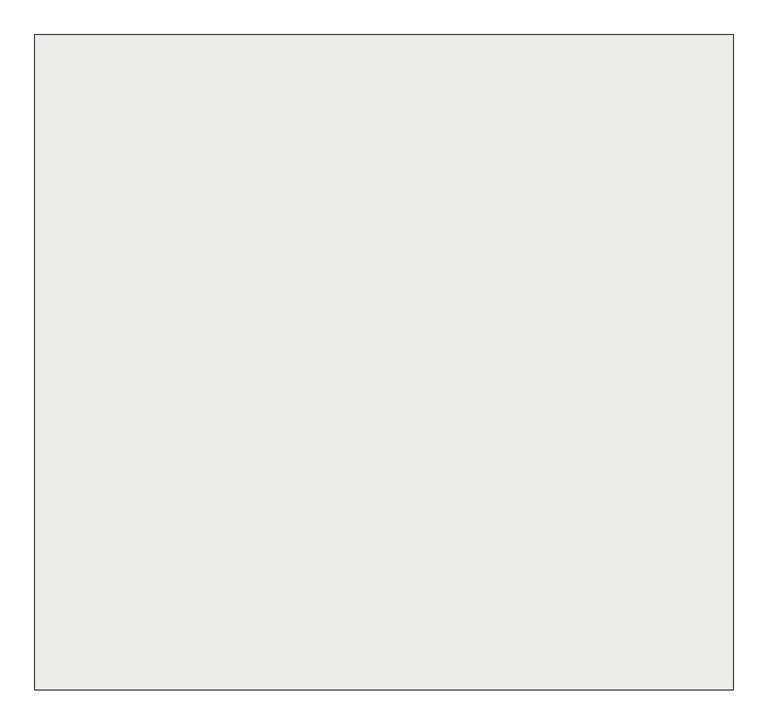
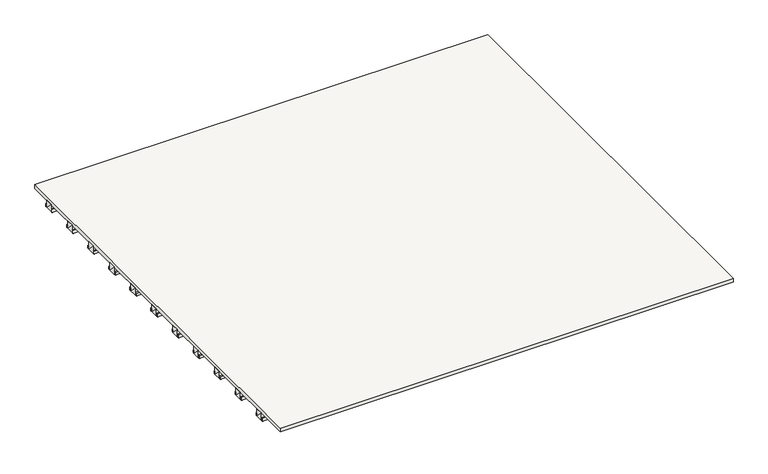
"""IFC4 building model written with IfcOpenShell, lengths in millimetres: slab geometry."""

from ifc_helpers import new_model, si_unit, frame, origin, place, context, project, spatial, polyline, outline, extrude, faceted_brep, source, transform, mapped, element, save


def slab_90040733(model_context):
    return source(origin(), model_context, "Body", "SolidModel", [
        faceted_brep([(-2362.845, -261.3, -120.0), (2362.845, -261.3, -120.0), (2362.845, -276.3, -120.0), (-2362.845, -276.3, -120.0), (-2362.845, -276.3, -90.0), (2362.845, -276.3, -90.0), (2362.845, -261.3, -90.0), (-2362.845, -261.3, -90.0)], [[[0, 1, 2, 3]], [[4, 5, 6, 7]], [[4, 3, 5]], [[3, 2, 5]], [[5, 2, 6]], [[2, 1, 6]], [[6, 1, 7]], [[1, 0, 7]], [[7, 0, 4]], [[0, 3, 4]]]),
        faceted_brep([(-2362.845, 498.7, -120.0), (2362.845, 498.7, -120.0), (2362.845, 483.7, -120.0), (-2362.845, 483.7, -120.0), (-2362.845, 483.7, -90.0), (2362.845, 483.7, -90.0), (2362.845, 498.7, -90.0), (-2362.845, 498.7, -90.0)], [[[0, 1, 2, 3]], [[4, 5, 6, 7]], [[4, 3, 5]], [[3, 2, 5]], [[5, 2, 6]], [[2, 1, 6]], [[6, 1, 7]], [[1, 0, 7]], [[7, 0, 4]], [[0, 3, 4]]]),
        faceted_brep([(-2362.845, -1796.3, -120.0), (2362.845, -1796.3, -120.0), (2362.845, -1876.3, -120.0), (-2362.845, -1876.3, -120.0), (-2362.845, -1876.3, -40.0), (2362.845, -1876.3, -40.0), (2362.845, -1796.3, -40.0), (-2362.845, -1796.3, -40.0)], [[[0, 1, 2, 3]], [[4, 5, 6, 7]], [[4, 3, 5]], [[3, 2, 5]], [[5, 2, 6]], [[2, 1, 6]], [[6, 1, 7]], [[1, 0, 7]], [[7, 0, 4]], [[0, 3, 4]]]),
        faceted_brep([(-2362.845, 1243.7, -120.0), (2362.845, 1243.7, -120.0), (2362.845, 1163.7, -120.0), (-2362.845, 1163.7, -120.0), (-2362.845, 1163.7, -40.0), (2362.845, 1163.7, -40.0), (2362.845, 1243.7, -40.0), (-2362.845, 1243.7, -40.0)], [[[0, 1, 2, 3]], [[4, 5, 6, 7]], [[4, 3, 5]], [[3, 2, 5]], [[5, 2, 6]], [[2, 1, 6]], [[6, 1, 7]], [[1, 0, 7]], [[7, 0, 4]], [[0, 3, 4]]]),
        faceted_brep([(-2362.845, -736.3, -120.0), (2362.845, -736.3, -120.0), (2362.845, -751.3, -120.0), (-2362.845, -751.3, -120.0), (-2362.845, -751.3, -90.0), (2362.845, -751.3, -90.0), (2362.845, -736.3, -90.0), (-2362.845, -736.3, -90.0)], [[[0, 1, 2, 3]], [[4, 5, 6, 7]], [[4, 3, 5]], [[3, 2, 5]], [[5, 2, 6]], [[2, 1, 6]], [[6, 1, 7]], [[1, 0, 7]], [[7, 0, 4]], [[0, 3, 4]]]),
        faceted_brep([(-2362.845, -1416.3, -120.0), (2362.845, -1416.3, -120.0), (2362.845, -1496.3, -120.0), (-2362.845, -1496.3, -120.0), (-2362.845, -1496.3, -40.0), (2362.845, -1496.3, -40.0), (2362.845, -1416.3, -40.0), (-2362.845, -1416.3, -40.0)], [[[0, 1, 2, 3]], [[4, 5, 6, 7]], [[4, 3, 5]], [[3, 2, 5]], [[5, 2, 6]], [[2, 1, 6]], [[6, 1, 7]], [[1, 0, 7]], [[7, 0, 4]], [[0, 3, 4]]]),
        faceted_brep([(-2362.845, 2003.7, -120.0), (2362.845, 2003.7, -120.0), (2362.845, 1923.7, -120.0), (-2362.845, 1923.7, -120.0), (-2362.845, 1923.7, -40.0), (2362.845, 1923.7, -40.0), (2362.845, 2003.7, -40.0), (-2362.845, 2003.7, -40.0)], [[[0, 1, 2, 3]], [[4, 5, 6, 7]], [[4, 3, 5]], [[3, 2, 5]], [[5, 2, 6]], [[2, 1, 6]], [[6, 1, 7]], [[1, 0, 7]], [[7, 0, 4]], [[0, 3, 4]]]),
        faceted_brep([(-2362.845, -1496.3, -120.0), (2362.845, -1496.3, -120.0), (2362.845, -1511.3, -120.0), (-2362.845, -1511.3, -120.0), (-2362.845, -1511.3, -90.0), (2362.845, -1511.3, -90.0), (2362.845, -1496.3, -90.0), (-2362.845, -1496.3, -90.0)], [[[0, 1, 2, 3]], [[4, 5, 6, 7]], [[4, 3, 5]], [[3, 2, 5]], [[5, 2, 6]], [[2, 1, 6]], [[6, 1, 7]], [[1, 0, 7]], [[7, 0, 4]], [[0, 3, 4]]]),
        faceted_brep([(-2362.845, 1163.7, -120.0), (2362.845, 1163.7, -120.0), (2362.845, 1148.7, -120.0), (-2362.845, 1148.7, -120.0), (-2362.845, 1148.7, -90.0), (2362.845, 1148.7, -90.0), (2362.845, 1163.7, -90.0), (-2362.845, 1163.7, -90.0)], [[[0, 1, 2, 3]], [[4, 5, 6, 7]], [[4, 3, 5]], [[3, 2, 5]], [[5, 2, 6]], [[2, 1, 6]], [[6, 1, 7]], [[1, 0, 7]], [[7, 0, 4]], [[0, 3, 4]]]),
        faceted_brep([(-2362.845, -1036.3, -120.0), (2362.845, -1036.3, -120.0), (2362.845, -1116.3, -120.0), (-2362.845, -1116.3, -120.0), (-2362.845, -1116.3, -40.0), (2362.845, -1116.3, -40.0), (2362.845, -1036.3, -40.0), (-2362.845, -1036.3, -40.0)], [[[0, 1, 2, 3]], [[4, 5, 6, 7]], [[4, 3, 5]], [[3, 2, 5]], [[5, 2, 6]], [[2, 1, 6]], [[6, 1, 7]], [[1, 0, 7]], [[7, 0, 4]], [[0, 3, 4]]]),
        faceted_brep([(-2362.845, 118.7, -120.0), (2362.845, 118.7, -120.0), (2362.845, 103.7, -120.0), (-2362.845, 103.7, -120.0), (-2362.845, 103.7, -90.0), (2362.845, 103.7, -90.0), (2362.845, 118.7, -90.0), (-2362.845, 118.7, -90.0)], [[[0, 1, 2, 3]], [[4, 5, 6, 7]], [[4, 3, 5]], [[3, 2, 5]], [[5, 2, 6]], [[2, 1, 6]], [[6, 1, 7]], [[1, 0, 7]], [[7, 0, 4]], [[0, 3, 4]]]),
        faceted_brep([(-2362.845, 1623.7, -120.0), (2362.845, 1623.7, -120.0), (2362.845, 1543.7, -120.0), (-2362.845, 1543.7, -120.0), (-2362.845, 1543.7, -40.0), (2362.845, 1543.7, -40.0), (2362.845, 1623.7, -40.0), (-2362.845, 1623.7, -40.0)], [[[0, 1, 2, 3]], [[4, 5, 6, 7]], [[4, 3, 5]], [[3, 2, 5]], [[5, 2, 6]], [[2, 1, 6]], [[6, 1, 7]], [[1, 0, 7]], [[7, 0, 4]], [[0, 3, 4]]]),
        faceted_brep([(-2362.845, -276.3, -120.0), (2362.845, -276.3, -120.0), (2362.845, -356.3, -120.0), (-2362.845, -356.3, -120.0), (-2362.845, -356.3, -40.0), (2362.845, -356.3, -40.0), (2362.845, -276.3, -40.0), (-2362.845, -276.3, -40.0)], [[[0, 1, 2, 3]], [[4, 5, 6, 7]], [[4, 3, 5]], [[3, 2, 5]], [[5, 2, 6]], [[2, 1, 6]], [[6, 1, 7]], [[1, 0, 7]], [[7, 0, 4]], [[0, 3, 4]]]),
        faceted_brep([(-2362.845, 863.7, -120.0), (2362.845, 863.7, -120.0), (2362.845, 783.7, -120.0), (-2362.845, 783.7, -120.0), (-2362.845, 783.7, -40.0), (2362.845, 783.7, -40.0), (2362.845, 863.7, -40.0), (-2362.845, 863.7, -40.0)], [[[0, 1, 2, 3]], [[4, 5, 6, 7]], [[4, 3, 5]], [[3, 2, 5]], [[5, 2, 6]], [[2, 1, 6]], [[6, 1, 7]], [[1, 0, 7]], [[7, 0, 4]], [[0, 3, 4]]]),
        faceted_brep([(-2362.845, 483.7, -120.0), (2362.845, 483.7, -120.0), (2362.845, 403.7, -120.0), (-2362.845, 403.7, -120.0), (-2362.845, 403.7, -40.0), (2362.845, 403.7, -40.0), (2362.845, 483.7, -40.0), (-2362.845, 483.7, -40.0)], [[[0, 1, 2, 3]], [[4, 5, 6, 7]], [[4, 3, 5]], [[3, 2, 5]], [[5, 2, 6]], [[2, 1, 6]], [[6, 1, 7]], [[1, 0, 7]], [[7, 0, 4]], [[0, 3, 4]]]),
        faceted_brep([(-2362.845, 878.7, -120.0), (2362.845, 878.7, -120.0), (2362.845, 863.7, -120.0), (-2362.845, 863.7, -120.0), (-2362.845, 863.7, -90.0), (2362.845, 863.7, -90.0), (2362.845, 878.7, -90.0), (-2362.845, 878.7, -90.0)], [[[0, 1, 2, 3]], [[4, 5, 6, 7]], [[4, 3, 5]], [[3, 2, 5]], [[5, 2, 6]], [[2, 1, 6]], [[6, 1, 7]], [[1, 0, 7]], [[7, 0, 4]], [[0, 3, 4]]]),
        faceted_brep([(-2362.845, -1876.3, -120.0), (2362.845, -1876.3, -120.0), (2362.845, -1891.3, -120.0), (-2362.845, -1891.3, -120.0), (-2362.845, -1891.3, -90.0), (2362.845, -1891.3, -90.0), (2362.845, -1876.3, -90.0), (-2362.845, -1876.3, -90.0)], [[[0, 1, 2, 3]], [[4, 5, 6, 7]], [[4, 3, 5]], [[3, 2, 5]], [[5, 2, 6]], [[2, 1, 6]], [[6, 1, 7]], [[1, 0, 7]], [[7, 0, 4]], [[0, 3, 4]]]),
        extrude(outline(polyline([(2362.84, 2216.3), (2362.85, -2216.29), (-2362.85, -2216.3), (-2362.84, 2216.3), (2362.84, 2216.3)])), frame((0.0, 0.0, -40.0), z_axis=(0.0, 0.0, 1.0), x_axis=(1.0, 0.0, 0.0)), (0.0, 0.0, 1.0), 40.0),
        faceted_brep([(-2362.845, -1021.3, -120.0), (2362.845, -1021.3, -120.0), (2362.845, -1036.3, -120.0), (-2362.845, -1036.3, -120.0), (-2362.845, -1036.3, -90.0), (2362.845, -1036.3, -90.0), (2362.845, -1021.3, -90.0), (-2362.845, -1021.3, -90.0)], [[[0, 1, 2, 3]], [[4, 5, 6, 7]], [[4, 3, 5]], [[3, 2, 5]], [[5, 2, 6]], [[2, 1, 6]], [[6, 1, 7]], [[1, 0, 7]], [[7, 0, 4]], [[0, 3, 4]]]),
        faceted_brep([(-2362.845, 23.7, -120.0), (2362.845, 23.7, -120.0), (2362.845, 8.7, -120.0), (-2362.845, 8.7, -120.0), (-2362.845, 8.7, -90.0), (2362.845, 8.7, -90.0), (2362.845, 23.7, -90.0), (-2362.845, 23.7, -90.0)], [[[0, 1, 2, 3]], [[4, 5, 6, 7]], [[4, 3, 5]], [[3, 2, 5]], [[5, 2, 6]], [[2, 1, 6]], [[6, 1, 7]], [[1, 0, 7]], [[7, 0, 4]], [[0, 3, 4]]]),
        faceted_brep([(-2362.845, 1638.7, -120.0), (2362.845, 1638.7, -120.0), (2362.845, 1623.7, -120.0), (-2362.845, 1623.7, -120.0), (-2362.845, 1623.7, -90.0), (2362.845, 1623.7, -90.0), (2362.845, 1638.7, -90.0), (-2362.845, 1638.7, -90.0)], [[[0, 1, 2, 3]], [[4, 5, 6, 7]], [[4, 3, 5]], [[3, 2, 5]], [[5, 2, 6]], [[2, 1, 6]], [[6, 1, 7]], [[1, 0, 7]], [[7, 0, 4]], [[0, 3, 4]]]),
        faceted_brep([(-2362.845, 2018.7, -120.0), (2362.845, 2018.7, -120.0), (2362.845, 2003.7, -120.0), (-2362.845, 2003.7, -120.0), (-2362.845, 2003.7, -90.0), (2362.845, 2003.7, -90.0), (2362.845, 2018.7, -90.0), (-2362.845, 2018.7, -90.0)], [[[0, 1, 2, 3]], [[4, 5, 6, 7]], [[4, 3, 5]], [[3, 2, 5]], [[5, 2, 6]], [[2, 1, 6]], [[6, 1, 7]], [[1, 0, 7]], [[7, 0, 4]], [[0, 3, 4]]]),
        faceted_brep([(-2362.845, 1923.7, -120.0), (2362.845, 1923.7, -120.0), (2362.845, 1908.7, -120.0), (-2362.845, 1908.7, -120.0), (-2362.845, 1908.7, -90.0), (2362.845, 1908.7, -90.0), (2362.845, 1923.7, -90.0), (-2362.845, 1923.7, -90.0)], [[[0, 1, 2, 3]], [[4, 5, 6, 7]], [[4, 3, 5]], [[3, 2, 5]], [[5, 2, 6]], [[2, 1, 6]], [[6, 1, 7]], [[1, 0, 7]], [[7, 0, 4]], [[0, 3, 4]]]),
        faceted_brep([(-2362.845, 403.7, -120.0), (2362.845, 403.7, -120.0), (2362.845, 388.7, -120.0), (-2362.845, 388.7, -120.0), (-2362.845, 388.7, -90.0), (2362.845, 388.7, -90.0), (2362.845, 403.7, -90.0), (-2362.845, 403.7, -90.0)], [[[0, 1, 2, 3]], [[4, 5, 6, 7]], [[4, 3, 5]], [[3, 2, 5]], [[5, 2, 6]], [[2, 1, 6]], [[6, 1, 7]], [[1, 0, 7]], [[7, 0, 4]], [[0, 3, 4]]]),
        faceted_brep([(-2362.845, 783.7, -120.0), (2362.845, 783.7, -120.0), (2362.845, 768.7, -120.0), (-2362.845, 768.7, -120.0), (-2362.845, 768.7, -90.0), (2362.845, 768.7, -90.0), (2362.845, 783.7, -90.0), (-2362.845, 783.7, -90.0)], [[[0, 1, 2, 3]], [[4, 5, 6, 7]], [[4, 3, 5]], [[3, 2, 5]], [[5, 2, 6]], [[2, 1, 6]], [[6, 1, 7]], [[1, 0, 7]], [[7, 0, 4]], [[0, 3, 4]]]),
        faceted_brep([(-2362.845, 1258.7, -120.0), (2362.845, 1258.7, -120.0), (2362.845, 1243.7, -120.0), (-2362.845, 1243.7, -120.0), (-2362.845, 1243.7, -90.0), (2362.845, 1243.7, -90.0), (2362.845, 1258.7, -90.0), (-2362.845, 1258.7, -90.0)], [[[0, 1, 2, 3]], [[4, 5, 6, 7]], [[4, 3, 5]], [[3, 2, 5]], [[5, 2, 6]], [[2, 1, 6]], [[6, 1, 7]], [[1, 0, 7]], [[7, 0, 4]], [[0, 3, 4]]]),
        faceted_brep([(-2362.845, -641.3, -120.0), (2362.845, -641.3, -120.0), (2362.845, -656.3, -120.0), (-2362.845, -656.3, -120.0), (-2362.845, -656.3, -90.0), (2362.845, -656.3, -90.0), (2362.845, -641.3, -90.0), (-2362.845, -641.3, -90.0)], [[[0, 1, 2, 3]], [[4, 5, 6, 7]], [[4, 3, 5]], [[3, 2, 5]], [[5, 2, 6]], [[2, 1, 6]], [[6, 1, 7]], [[1, 0, 7]], [[7, 0, 4]], [[0, 3, 4]]]),
        faceted_brep([(-2362.845, -356.3, -120.0), (2362.845, -356.3, -120.0), (2362.845, -371.3, -120.0), (-2362.845, -371.3, -120.0), (-2362.845, -371.3, -90.0), (2362.845, -371.3, -90.0), (2362.845, -356.3, -90.0), (-2362.845, -356.3, -90.0)], [[[0, 1, 2, 3]], [[4, 5, 6, 7]], [[4, 3, 5]], [[3, 2, 5]], [[5, 2, 6]], [[2, 1, 6]], [[6, 1, 7]], [[1, 0, 7]], [[7, 0, 4]], [[0, 3, 4]]]),
        faceted_brep([(-2362.845, -1401.3, -120.0), (2362.845, -1401.3, -120.0), (2362.845, -1416.3, -120.0), (-2362.845, -1416.3, -120.0), (-2362.845, -1416.3, -90.0), (2362.845, -1416.3, -90.0), (2362.845, -1401.3, -90.0), (-2362.845, -1401.3, -90.0)], [[[0, 1, 2, 3]], [[4, 5, 6, 7]], [[4, 3, 5]], [[3, 2, 5]], [[5, 2, 6]], [[2, 1, 6]], [[6, 1, 7]], [[1, 0, 7]], [[7, 0, 4]], [[0, 3, 4]]]),
        faceted_brep([(-2362.845, -1116.3, -120.0), (2362.845, -1116.3, -120.0), (2362.845, -1131.3, -120.0), (-2362.845, -1131.3, -120.0), (-2362.845, -1131.3, -90.0), (2362.845, -1131.3, -90.0), (2362.845, -1116.3, -90.0), (-2362.845, -1116.3, -90.0)], [[[0, 1, 2, 3]], [[4, 5, 6, 7]], [[4, 3, 5]], [[3, 2, 5]], [[5, 2, 6]], [[2, 1, 6]], [[6, 1, 7]], [[1, 0, 7]], [[7, 0, 4]], [[0, 3, 4]]]),
        faceted_brep([(-2362.845, 103.7, -120.0), (2362.845, 103.7, -120.0), (2362.845, 23.7, -120.0), (-2362.845, 23.7, -120.0), (-2362.845, 23.7, -40.0), (2362.845, 23.7, -40.0), (2362.845, 103.7, -40.0), (-2362.845, 103.7, -40.0)], [[[0, 1, 2, 3]], [[4, 5, 6, 7]], [[4, 3, 5]], [[3, 2, 5]], [[5, 2, 6]], [[2, 1, 6]], [[6, 1, 7]], [[1, 0, 7]], [[7, 0, 4]], [[0, 3, 4]]]),
        faceted_brep([(-2362.845, -656.3, -120.0), (2362.845, -656.3, -120.0), (2362.845, -736.3, -120.0), (-2362.845, -736.3, -120.0), (-2362.845, -736.3, -40.0), (2362.845, -736.3, -40.0), (2362.845, -656.3, -40.0), (-2362.845, -656.3, -40.0)], [[[0, 1, 2, 3]], [[4, 5, 6, 7]], [[4, 3, 5]], [[3, 2, 5]], [[5, 2, 6]], [[2, 1, 6]], [[6, 1, 7]], [[1, 0, 7]], [[7, 0, 4]], [[0, 3, 4]]]),
        faceted_brep([(-2362.845, 1543.7, -120.0), (2362.845, 1543.7, -120.0), (2362.845, 1528.7, -120.0), (-2362.845, 1528.7, -120.0), (-2362.845, 1528.7, -90.0), (2362.845, 1528.7, -90.0), (2362.845, 1543.7, -90.0), (-2362.845, 1543.7, -90.0)], [[[0, 1, 2, 3]], [[4, 5, 6, 7]], [[4, 3, 5]], [[3, 2, 5]], [[5, 2, 6]], [[2, 1, 6]], [[6, 1, 7]], [[1, 0, 7]], [[7, 0, 4]], [[0, 3, 4]]]),
        faceted_brep([(-2362.845, -1781.3, -120.0), (2362.845, -1781.3, -120.0), (2362.845, -1796.3, -120.0), (-2362.845, -1796.3, -120.0), (-2362.845, -1796.3, -90.0), (2362.845, -1796.3, -90.0), (2362.845, -1781.3, -90.0), (-2362.845, -1781.3, -90.0)], [[[0, 1, 2, 3]], [[4, 5, 6, 7]], [[4, 3, 5]], [[3, 2, 5]], [[5, 2, 6]], [[2, 1, 6]], [[6, 1, 7]], [[1, 0, 7]], [[7, 0, 4]], [[0, 3, 4]]]),
    ])


if __name__ == "__main__":
    model = new_model("IFC4")
    model_context = context("Model", 3, world=origin())
    ifc_project = project(units=[si_unit("LENGTHUNIT", "METRE", prefix="MILLI")], contexts=[model_context])
    site = spatial("IfcSite", under=ifc_project)
    building = spatial("IfcBuilding", under=site)
    placement = place(None, origin())
    slab_shape = slab_90040733(model_context)
    element("IfcSlab", 1, at=placement, inside=building, context=model_context, shape_type="MappedRepresentation", body=[
        mapped(slab_shape, transform((0.0, 0.0, 0.0), x_axis=(1.0, 0.0, 0.0), y_axis=(0.0, 1.0, 0.0), z_axis=(0.0, 0.0, 1.0))),
    ])
    save(model, "model.ifc")
